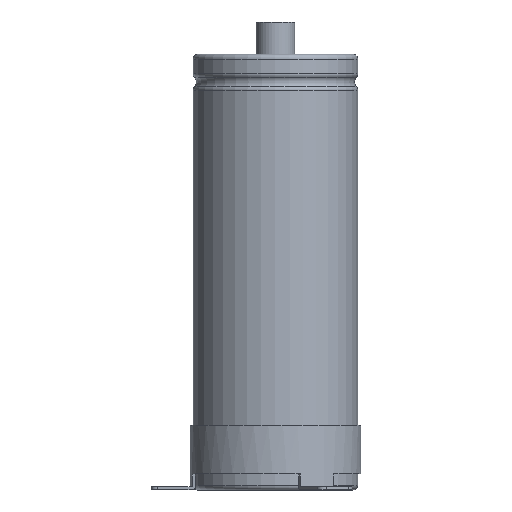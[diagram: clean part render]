
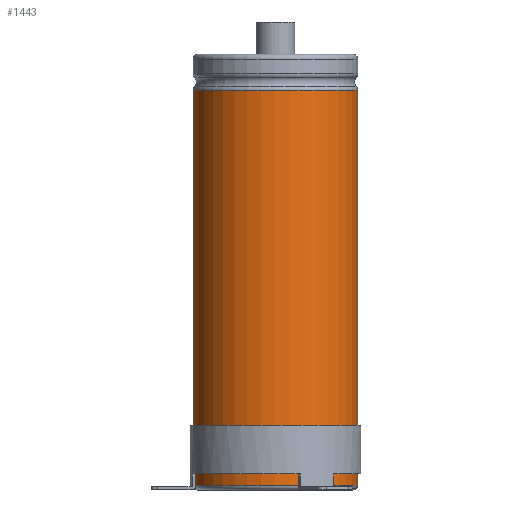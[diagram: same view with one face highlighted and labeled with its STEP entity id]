
A CAD part, front view. The second image highlights one B-rep face of the part: STEP entity #1443.
In plain terms, the highlighted cylindrical face has radius 25.5 mm (diameter 51 mm), a partial arc.
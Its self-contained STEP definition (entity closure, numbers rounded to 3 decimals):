
#421=LINE('',#8075,#635);
#422=LINE('',#8079,#636);
#635=VECTOR('',#5948,1.);
#636=VECTOR('',#5951,1.);
#1096=FACE_OUTER_BOUND('',#1908,.T.);
#1443=ADVANCED_FACE('',(#1096),#1554,.T.);
#1554=CYLINDRICAL_SURFACE('',#4869,25.5);
#1908=EDGE_LOOP('',(#2925,#2926,#2927,#2928));
#2925=ORIENTED_EDGE('',*,*,#4079,.T.);
#2926=ORIENTED_EDGE('',*,*,#4080,.T.);
#2927=ORIENTED_EDGE('',*,*,#4081,.F.);
#2928=ORIENTED_EDGE('',*,*,#4082,.F.);
#3512=VERTEX_POINT('',#8068);
#3514=VERTEX_POINT('',#8072);
#3515=VERTEX_POINT('',#8076);
#3516=VERTEX_POINT('',#8078);
#4079=EDGE_CURVE('',#3512,#3514,#4398,.T.);
#4080=EDGE_CURVE('',#3514,#3515,#421,.T.);
#4081=EDGE_CURVE('',#3516,#3515,#4399,.T.);
#4082=EDGE_CURVE('',#3512,#3516,#422,.T.);
#4398=CIRCLE('',#4866,25.5);
#4399=CIRCLE('',#4868,25.5);
#4866=AXIS2_PLACEMENT_3D('',#8073,#5944,#5945);
#4868=AXIS2_PLACEMENT_3D('',#8077,#5949,#5950);
#4869=AXIS2_PLACEMENT_3D('',#8080,#5952,#5953);
#5944=DIRECTION('',(0.,0.,-1.));
#5945=DIRECTION('',(0.,1.,0.));
#5948=DIRECTION('',(0.,0.,-1.));
#5949=DIRECTION('',(0.,0.,-1.));
#5950=DIRECTION('',(0.,1.,0.));
#5951=DIRECTION('',(0.,0.,-1.));
#5952=DIRECTION('',(0.,0.,-1.));
#5953=DIRECTION('',(0.,1.,0.));
#8068=CARTESIAN_POINT('',(5.084,24.988,123.9));
#8072=CARTESIAN_POINT('',(-5.084,24.988,123.9));
#8073=CARTESIAN_POINT('',(0.,0.,123.9));
#8075=CARTESIAN_POINT('',(-5.084,24.988,123.9));
#8076=CARTESIAN_POINT('',(-5.084,24.988,1.5));
#8077=CARTESIAN_POINT('',(0.,0.,1.5));
#8078=CARTESIAN_POINT('',(5.084,24.988,1.5));
#8079=CARTESIAN_POINT('',(5.084,24.988,123.9));
#8080=CARTESIAN_POINT('',(0.,0.,0.));
